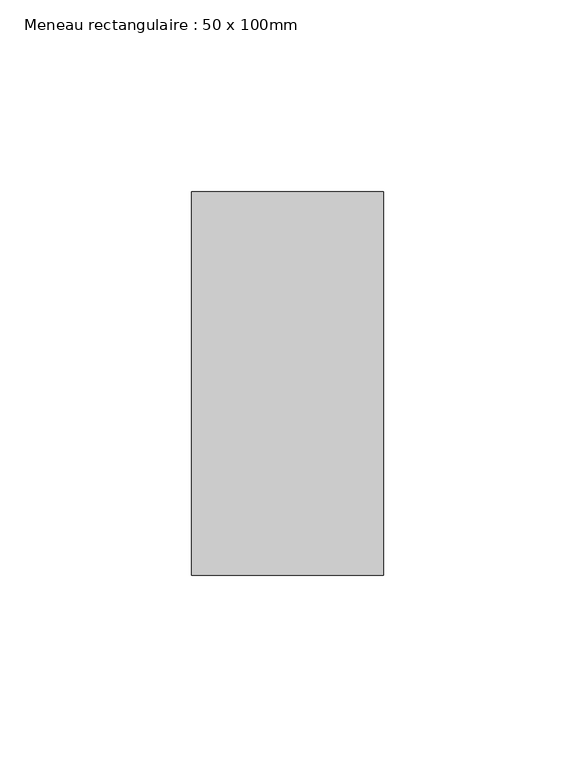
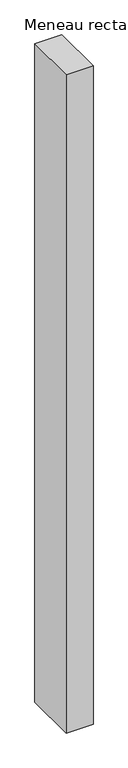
"""IFC4 building model written with IfcOpenShell, lengths in millimetres: member geometry, Meneau rectangulaire : 50 x 100mm."""

from ifc_helpers import new_model, si_unit, frame, origin, place, context, project, spatial, polyline, outline, extrude, source, transform, mapped, element, save


def meneau_rectangulaire_50_x_100mm_a074cdb9(model_context):
    return source(origin(), model_context, "Body", "SweptSolid", [
        extrude(outline(polyline([(0.0, 50.0), (0.0, -50.0), (-50.0, -50.0), (-50.0, 50.0), (0.0, 50.0)])), frame((0.0, 0.0, -1290.0), z_axis=(0.0, 0.0, 1.0), x_axis=(1.0, 0.0, 0.0)), (0.0, 0.0, 1.0), 1290.0),
    ])


if __name__ == "__main__":
    model = new_model("IFC4")
    model_context = context("Model", 3, world=origin())
    ifc_project = project(units=[si_unit("LENGTHUNIT", "METRE", prefix="MILLI")], contexts=[model_context])
    site = spatial("IfcSite", under=ifc_project)
    building = spatial("IfcBuilding", under=site)
    placement = place(None, origin())
    meneau_rectangulaire_50_x_100mm_shape = meneau_rectangulaire_50_x_100mm_a074cdb9(model_context)
    element("IfcMember", 1, ObjectType="Meneau rectangulaire : 50 x 100mm", at=placement, inside=building, context=model_context, shape_type="MappedRepresentation", body=[
        mapped(meneau_rectangulaire_50_x_100mm_shape, transform((0.0, 0.0, 0.0), x_axis=(1.0, 0.0, 0.0), y_axis=(0.0, 1.0, 0.0), z_axis=(0.0, 0.0, 1.0))),
    ])
    save(model, "model.ifc")
